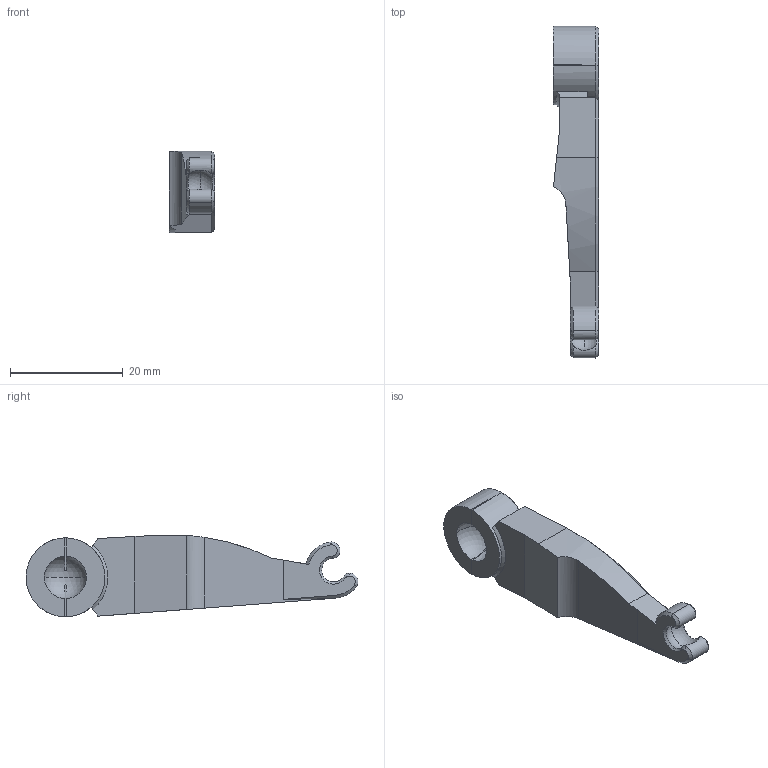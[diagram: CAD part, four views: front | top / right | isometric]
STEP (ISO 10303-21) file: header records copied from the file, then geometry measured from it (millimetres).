
FILE_DESCRIPTION (( 'STEP AP214' ), '1' );
FILE_NAME ('B1-leg-thigh-R.step', '2023-08-03T13:48:22', ( '' ), ( '' ), 'SwSTEP 2.0', 'SolidWorks 2020', '' );
FILE_SCHEMA (( 'AUTOMOTIVE_DESIGN' ));
Length unit declared in the file: millimetre
Products named in the file (1): B1-leg-thigh-R
Bounding box: 8 x 58.9 x 14.46 mm (x, y, z)
Volume: 3905.5 mm3; surface area: 2358.5 mm2
Topology: 1 solids, 1 shells, 54 faces, 143 edges, 92 vertices
Faces by surface type: plane 24, cone 17, cylinder 9, sphere 4
Entity records: 1770 total; most frequent: CARTESIAN_POINT 385, DIRECTION 291, ORIENTED_EDGE 286, EDGE_CURVE 143, AXIS2_PLACEMENT_3D 112, VERTEX_POINT 92, LINE 67, VECTOR 67
